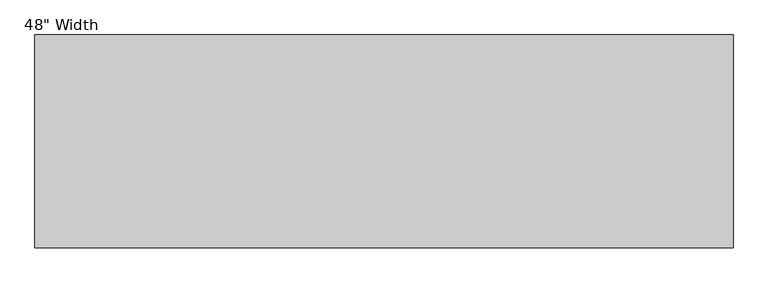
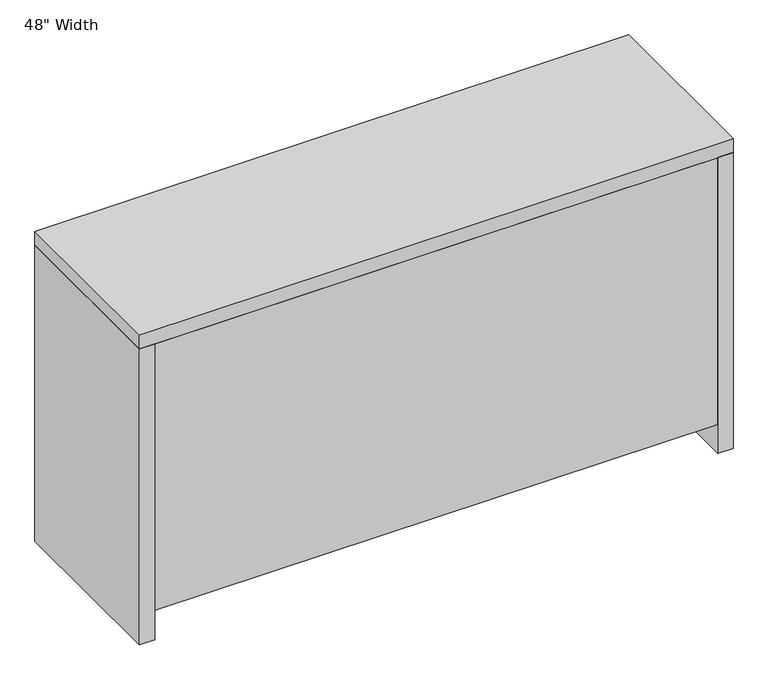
"""IFC4 building model written with IfcOpenShell, lengths in millimetres: furniture geometry."""

from ifc_helpers import new_model, si_unit, frame, origin, origin_with_axes, place, context, project, spatial, polyline, outline, extrude, source, transform, mapped, element, save


def furniture_333ed768(model_context):
    return source(origin(), model_context, "Body", "SweptSolid", [
        extrude(outline(polyline([(493.7125, 577.85), (493.7125, 9.525), (642.9375, 9.525), (642.9375, -9.525), (493.7125, -9.525), (493.7125, -577.85), (474.6625, -577.85), (474.6625, -9.525), (93.6625, -9.525), (93.6625, 9.525), (474.6625, 9.525), (474.6625, 577.85), (493.7125, 577.85)])), frame((0.0, 19.05, 0.0), z_axis=(0.0, 1.0, 0.0), x_axis=(0.0, 0.0, 1.0)), (0.0, 0.0, 1.0), 333.375),
        extrude(outline(polyline([(-609.6, 0.0), (-609.6, 371.475), (-577.85, 371.475), (-577.85, 0.0), (-609.6, 0.0)])), origin_with_axes(), (0.0, 0.0, 1.0), 642.9375),
        extrude(outline(polyline([(609.6, 371.475), (609.6, 0.0), (577.85, 0.0), (577.85, 371.475), (609.6, 371.475)])), origin_with_axes(), (0.0, 0.0, 1.0), 642.9375),
        extrude(outline(polyline([(577.85, 19.05), (-577.85, 19.05), (-577.85, 352.425), (577.85, 352.425), (577.85, 19.05)])), frame((0.0, 0.0, 63.5), z_axis=(0.0, 0.0, 1.0), x_axis=(1.0, 0.0, 0.0)), (0.0, 0.0, 1.0), 30.1625),
        extrude(outline(polyline([(609.6, 0.0), (-609.6, 0.0), (-609.6, 371.475), (609.6, 371.475), (609.6, 0.0)])), frame((0.0, 0.0, 642.9375), z_axis=(0.0, 0.0, 1.0), x_axis=(1.0, 0.0, 0.0)), (0.0, 0.0, 1.0), 30.1625),
        extrude(outline(polyline([(577.85, 0.0), (-577.85, 0.0), (-577.85, 19.05), (577.85, 19.05), (577.85, 0.0)])), frame((0.0, 0.0, 63.5), z_axis=(0.0, 0.0, 1.0), x_axis=(1.0, 0.0, 0.0)), (0.0, 0.0, 1.0), 579.4375),
    ])


if __name__ == "__main__":
    model = new_model("IFC4")
    model_context = context("Model", 3, world=origin())
    ifc_project = project(units=[si_unit("LENGTHUNIT", "METRE", prefix="MILLI")], contexts=[model_context])
    site = spatial("IfcSite", under=ifc_project)
    building = spatial("IfcBuilding", under=site)
    placement = place(None, origin())
    furniture_shape = furniture_333ed768(model_context)
    element("IfcFurniture", 1, ObjectType="Haworth_XSeries-Active-Bookcase : 48\" Width", at=placement, inside=building, context=model_context, shape_type="MappedRepresentation", body=[
        mapped(furniture_shape, transform((0.0, 0.0, 0.0), x_axis=(1.0, 0.0, 0.0), y_axis=(0.0, 1.0, 0.0), z_axis=(0.0, 0.0, 1.0))),
    ])
    save(model, "model.ifc")
